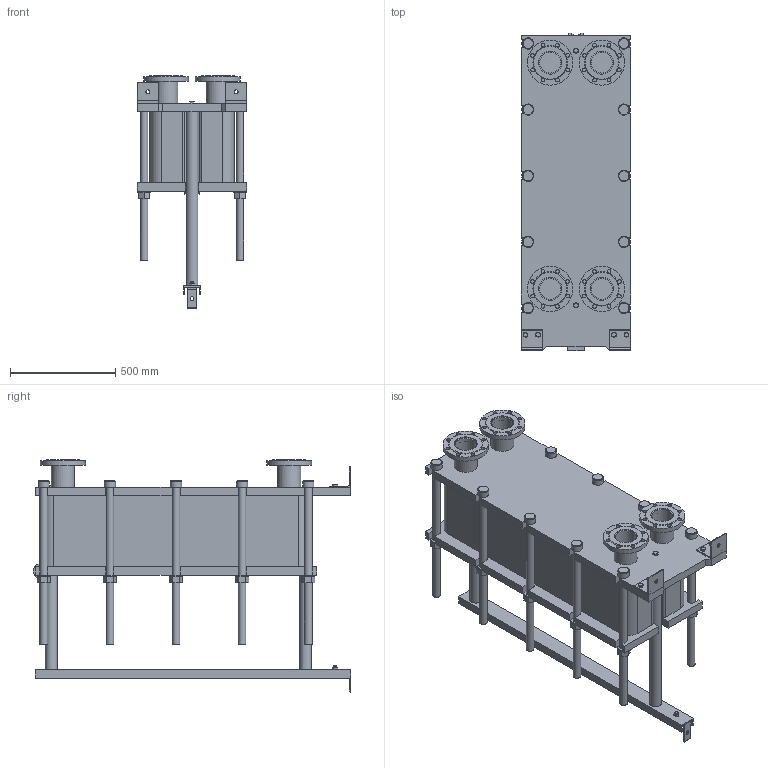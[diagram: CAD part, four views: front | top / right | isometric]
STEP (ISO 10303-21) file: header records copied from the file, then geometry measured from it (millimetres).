
FILE_DESCRIPTION(/* description */ (''),/* implementation_level */ '2;1');
FILE_NAME(/* name */ 'C:\Users\zhuro\Desktop\ENCO\TO\ЭН-04\ЭН-0,5-04-98-1.stp',/* time_stamp */ '2022-06-06T10:53:44+03:00',/* author */ ('zhuro'),/* organization */ (''),/* preprocessor_version */ 'ST-DEVELOPER v18.1',/* originating_system */ 'Autodesk Inventor 2022',/* authorisation */ '');
FILE_SCHEMA (('AUTOMOTIVE_DESIGN { 1 0 10303 214 3 1 1 }'));
Length unit declared in the file: millimetre
Products named in the file (1): ЭН-0,5-04-98-1
Bounding box: 520 x 1510 x 1104 mm (x, y, z)
Volume: 240065712.3 mm3; surface area: 8311281.8 mm2
Topology: 45 solids, 45 shells, 668 faces, 1611 edges, 1048 vertices
Faces by surface type: plane 457, cylinder 166, cone 39, torus 6
Full cylindrical faces by diameter (mm): 8 x4, 10 x2, 16 x8, 18 x35, 36 x25, 40 x2, 42 x1, 45 x4, 54 x10, 57 x2, 60 x10, 68 x2, 100 x4, 110 x8, 215 x4
Entity records: 23607 total; most frequent: CARTESIAN_POINT 7348, DIRECTION 3371, ORIENTED_EDGE 3142, EDGE_CURVE 1571, AXIS2_PLACEMENT_3D 1199, VERTEX_POINT 1044, LINE 973, VECTOR 973
